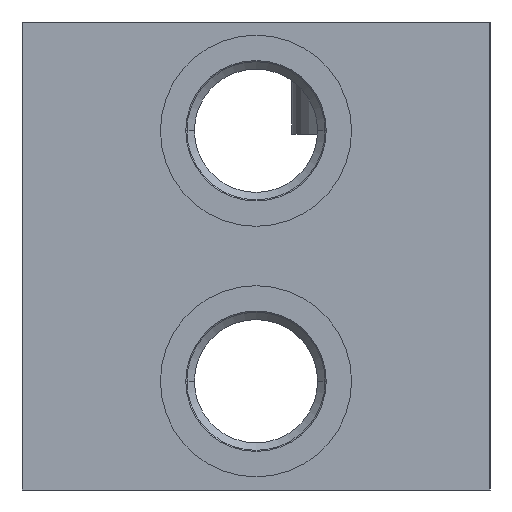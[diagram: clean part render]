
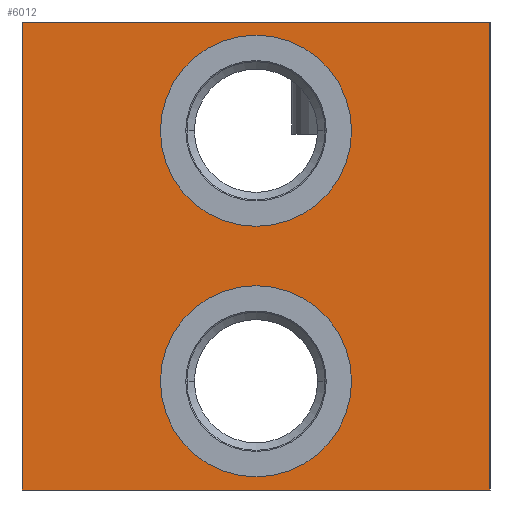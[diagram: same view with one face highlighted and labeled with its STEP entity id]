
A CAD part, left-side view. The second image highlights one B-rep face of the part: STEP entity #6012.
In plain terms, the highlighted planar face has unit normal (-1, 0, 0).
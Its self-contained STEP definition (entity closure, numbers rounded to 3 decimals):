
#30=DIRECTION('',(0.,-1.,0.));
#31=VECTOR('',#30,71.);
#32=CARTESIAN_POINT('',(0.,71.,0.));
#33=LINE('',#32,#31);
#211=DIRECTION('',(0.,0.,-1.));
#212=VECTOR('',#211,71.);
#213=CARTESIAN_POINT('',(0.,0.,0.));
#214=LINE('',#213,#212);
#1170=DIRECTION('',(0.,0.,-1.));
#1171=VECTOR('',#1170,71.);
#1172=CARTESIAN_POINT('',(0.,71.,0.));
#1173=LINE('',#1172,#1171);
#1177=CARTESIAN_POINT('',(0.,35.5,-54.5));
#1178=DIRECTION('',(1.,0.,0.));
#1179=DIRECTION('',(0.,-1.,0.));
#1180=AXIS2_PLACEMENT_3D('',#1177,#1178,#1179);
#1185=CARTESIAN_POINT('',(0.,35.5,-54.5));
#1186=DIRECTION('',(1.,0.,0.));
#1187=DIRECTION('',(0.,1.,0.));
#1188=AXIS2_PLACEMENT_3D('',#1185,#1186,#1187);
#1193=CARTESIAN_POINT('',(0.,35.5,-16.5));
#1194=DIRECTION('',(1.,0.,0.));
#1195=DIRECTION('',(0.,-1.,0.));
#1196=AXIS2_PLACEMENT_3D('',#1193,#1194,#1195);
#1201=CARTESIAN_POINT('',(0.,35.5,-16.5));
#1202=DIRECTION('',(1.,0.,0.));
#1203=DIRECTION('',(0.,1.,0.));
#1204=AXIS2_PLACEMENT_3D('',#1201,#1202,#1203);
#1230=DIRECTION('',(0.,-1.,0.));
#1231=VECTOR('',#1230,71.);
#1232=CARTESIAN_POINT('',(0.,71.,-71.));
#1233=LINE('',#1232,#1231);
#5015=CARTESIAN_POINT('',(0.,0.,0.));
#5017=VERTEX_POINT('',#5015);
#5021=CARTESIAN_POINT('',(0.,71.,0.));
#5022=VERTEX_POINT('',#5021);
#5023=CARTESIAN_POINT('',(0.,0.,-71.));
#5025=VERTEX_POINT('',#5023);
#5029=CARTESIAN_POINT('',(0.,71.,-71.));
#5030=VERTEX_POINT('',#5029);
#5059=CARTESIAN_POINT('',(0.,21.,-54.5));
#5060=CARTESIAN_POINT('',(0.,50.,-54.5));
#5061=VERTEX_POINT('',#5059);
#5062=VERTEX_POINT('',#5060);
#5075=CARTESIAN_POINT('',(0.,21.,-16.5));
#5076=CARTESIAN_POINT('',(0.,50.,-16.5));
#5077=VERTEX_POINT('',#5075);
#5078=VERTEX_POINT('',#5076);
#5988=CARTESIAN_POINT('',(0.,71.,0.));
#5989=DIRECTION('',(-1.,0.,0.));
#5990=DIRECTION('',(0.,-1.,0.));
#5991=AXIS2_PLACEMENT_3D('',#5988,#5989,#5990);
#5992=PLANE('',#5991);
#5993=ORIENTED_EDGE('',*,*,#5638,.T.);
#5994=ORIENTED_EDGE('',*,*,#5724,.T.);
#5996=ORIENTED_EDGE('',*,*,#5995,.F.);
#5997=ORIENTED_EDGE('',*,*,#5811,.F.);
#5998=EDGE_LOOP('',(#5993,#5994,#5996,#5997));
#5999=FACE_OUTER_BOUND('',#5998,.F.);
#6001=ORIENTED_EDGE('',*,*,#6000,.F.);
#6003=ORIENTED_EDGE('',*,*,#6002,.F.);
#6004=EDGE_LOOP('',(#6001,#6003));
#6005=FACE_BOUND('',#6004,.F.);
#6007=ORIENTED_EDGE('',*,*,#6006,.F.);
#6009=ORIENTED_EDGE('',*,*,#6008,.F.);
#6010=EDGE_LOOP('',(#6007,#6009));
#6011=FACE_BOUND('',#6010,.F.);
#1181=CIRCLE('',#1180,14.5);
#1189=CIRCLE('',#1188,14.5);
#1197=CIRCLE('',#1196,14.5);
#1205=CIRCLE('',#1204,14.5);
#5638=EDGE_CURVE('',#5022,#5017,#33,.T.);
#5724=EDGE_CURVE('',#5017,#5025,#214,.T.);
#5811=EDGE_CURVE('',#5022,#5030,#1173,.T.);
#5995=EDGE_CURVE('',#5030,#5025,#1233,.T.);
#6000=EDGE_CURVE('',#5061,#5062,#1181,.T.);
#6002=EDGE_CURVE('',#5062,#5061,#1189,.T.);
#6006=EDGE_CURVE('',#5077,#5078,#1197,.T.);
#6008=EDGE_CURVE('',#5078,#5077,#1205,.T.);
#6012=ADVANCED_FACE('',(#5999,#6005,#6011),#5992,.T.);
